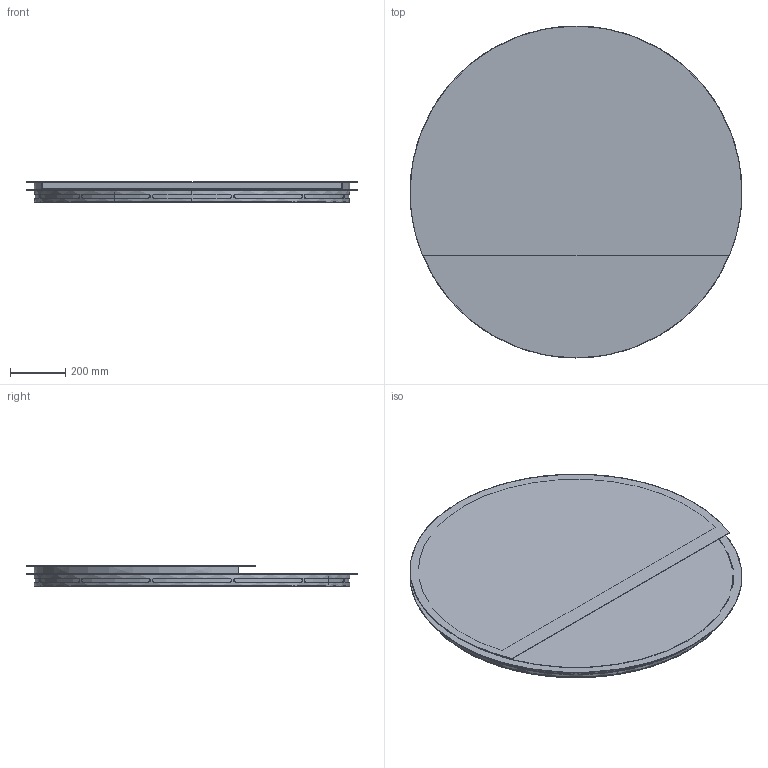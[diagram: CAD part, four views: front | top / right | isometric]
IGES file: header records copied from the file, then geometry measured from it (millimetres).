
Start section: SolidWorks IGES file using analytic representation for surfaces
Global section: file name: \\192.168.0.53\Reserch Development\SITO WEB\2024\2D 3D-Products\3D\De Castelli-3D-Light&Shade120.igs; native system: SolidWorks 2022; preprocessor: SolidWorks 2022; author: AlessandroP; date: 240828.112843; units: millimetre
Bounding box: 1200 x 1200 x 74.5 mm (x, y, z)
Surface area: 5186091.8 mm2 (no closed solid volume)
Topology: 0 solids, 0 shells, 247 faces, 6225 edges, 6225 vertices
Faces by surface type: revolution 124, bspline 123
